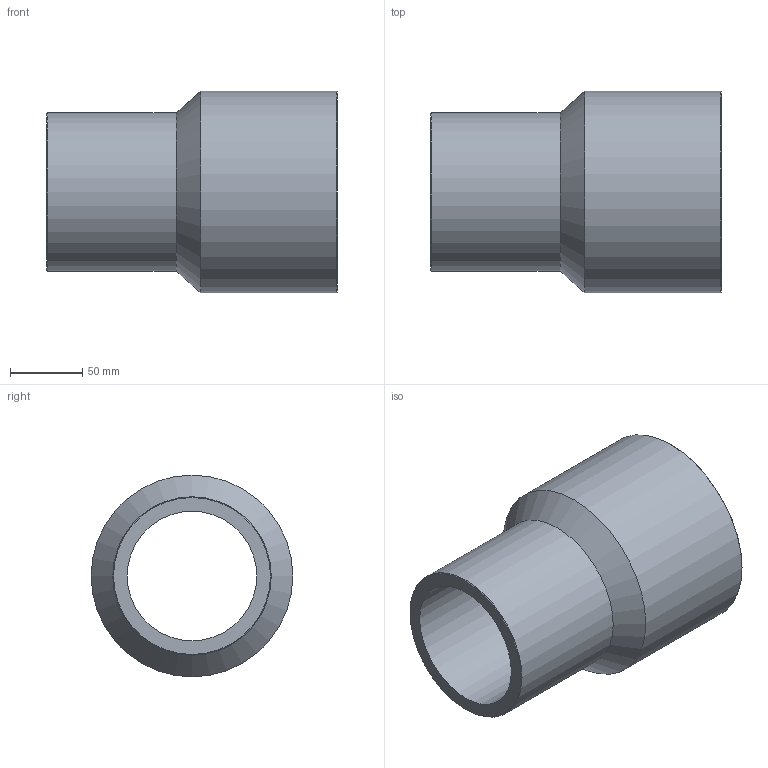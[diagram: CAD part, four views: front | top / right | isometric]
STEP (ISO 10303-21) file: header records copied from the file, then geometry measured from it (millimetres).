
FILE_DESCRIPTION(/* description */ ('Unknown'),/* implementation_level */ '2;1');
FILE_NAME(/* name */ 'RP140110C',/* time_stamp */ '2021-09-17T15:15:03+02:00',/* author */ ('Unknown'),/* organization */ ('Unknown'),/* preprocessor_version */ 'ST-DEVELOPER v16.7',/* originating_system */ 'Solid Edge',/* authorisation */ 'Unknown');
FILE_SCHEMA (('AUTOMOTIVE_DESIGN {1 0 10303 214 3 1 1}'));
Length unit declared in the file: millimetre
Products named in the file (1): RP140110C
Bounding box: 202 x 140 x 140 mm (x, y, z)
Volume: 862045.2 mm3; surface area: 155630.1 mm2
Topology: 1 solids, 1 shells, 10 faces, 19 edges, 11 vertices
Faces by surface type: cylinder 4, cone 4, plane 2
Full cylindrical faces by diameter (mm): 90 x1, 110 x1, 114.6 x1, 140 x1
Entity records: 238 total; most frequent: DIRECTION 42, CARTESIAN_POINT 31, AXIS2_PLACEMENT_3D 21, ORIENTED_EDGE 20, EDGE_LOOP 20, FACE_BOUND 20, EDGE_CURVE 10, VERTEX_POINT 10
